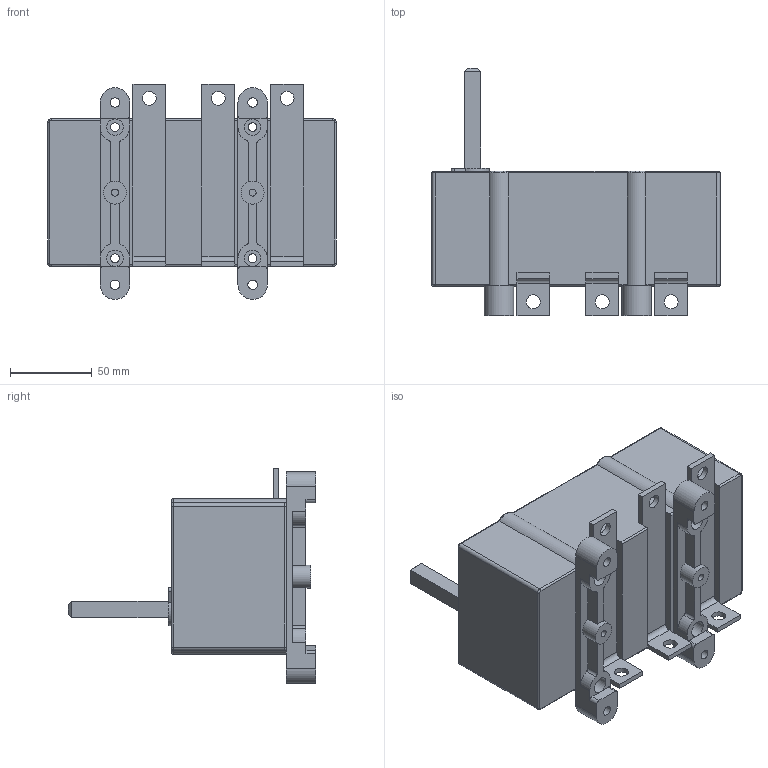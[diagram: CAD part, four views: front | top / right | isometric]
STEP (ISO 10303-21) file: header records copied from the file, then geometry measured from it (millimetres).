
FILE_DESCRIPTION(/* description */ (''),/* implementation_level */ '2;1');
FILE_NAME(/* name */ 'RA250 P3 B.stp',/* time_stamp */ '2021-08-18T08:06:52+02:00',/* author */ (''),/* organization */ (''),/* preprocessor_version */ 'ST-DEVELOPER v18.1',/* originating_system */ 'SIEMENS PLM Software NX 1965',/* authorisation */ '');
FILE_SCHEMA (('AUTOMOTIVE_DESIGN { 1 0 10303 214 3 1 1 1 }'));
Length unit declared in the file: millimetre
Products named in the file (1): RA250 P3 B
Bounding box: 176 x 151 x 131.18 mm (x, y, z)
Volume: 1139643.1 mm3; surface area: 98135.9 mm2
Topology: 1 solids, 1 shells, 205 faces, 538 edges, 348 vertices
Faces by surface type: plane 104, cylinder 89, bspline 8, torus 4
Full cylindrical faces by diameter (mm): 4.3 x2, 5.3 x4, 5.8 x4, 8.5 x6, 10 x8, 14 x2
Entity records: 6497 total; most frequent: CARTESIAN_POINT 1428, DIRECTION 1061, ORIENTED_EDGE 1002, EDGE_CURVE 501, AXIS2_PLACEMENT_3D 378, VERTEX_POINT 332, LINE 305, VECTOR 305
